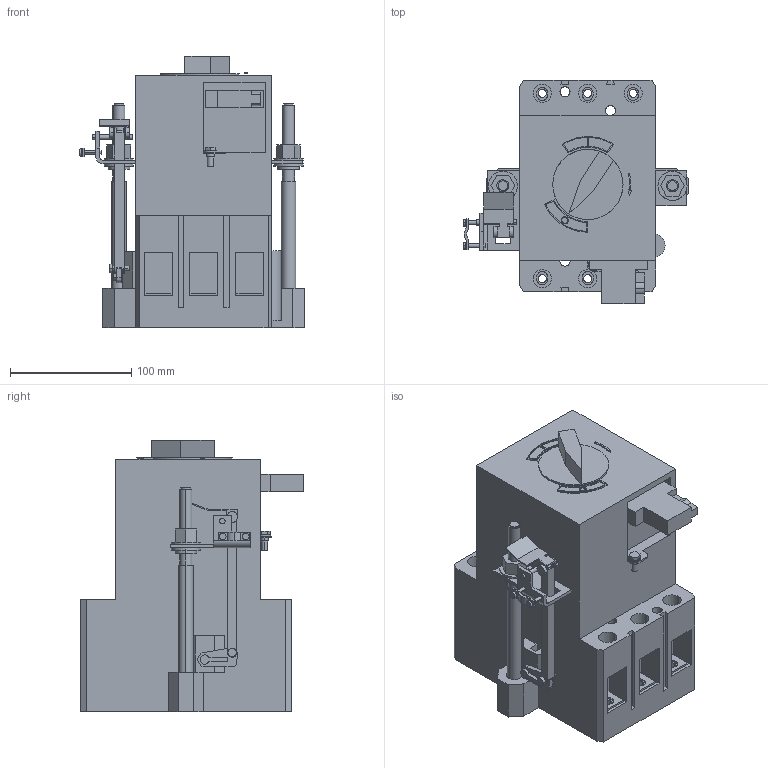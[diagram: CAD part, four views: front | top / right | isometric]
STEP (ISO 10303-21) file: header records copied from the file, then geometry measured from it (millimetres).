
FILE_DESCRIPTION (( 'STEP AP214' ), '1' );
FILE_NAME ('30 (1.5).STEP', '2023-08-08T11:58:04', ( '' ), ( '' ), 'SwSTEP 2.0', 'SolidWorks 2018', '' );
FILE_SCHEMA (( 'AUTOMOTIVE_DESIGN' ));
Length unit declared in the file: millimetre
Products named in the file (1): 30 (1.5)
Bounding box: 186.31 x 184.69 x 224.4 mm (x, y, z)
Volume: 3326551.3 mm3; surface area: 232669.8 mm2
Topology: 3 solids, 3 shells, 494 faces, 1258 edges, 834 vertices
Faces by surface type: plane 316, cylinder 178
Entity records: 15083 total; most frequent: DIRECTION 2613, CARTESIAN_POINT 2587, ORIENTED_EDGE 2516, EDGE_CURVE 1258, LINE 893, VECTOR 893, AXIS2_PLACEMENT_3D 860, VERTEX_POINT 834
